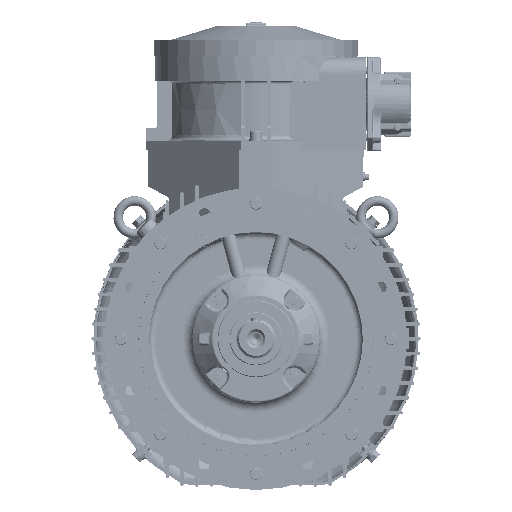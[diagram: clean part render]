
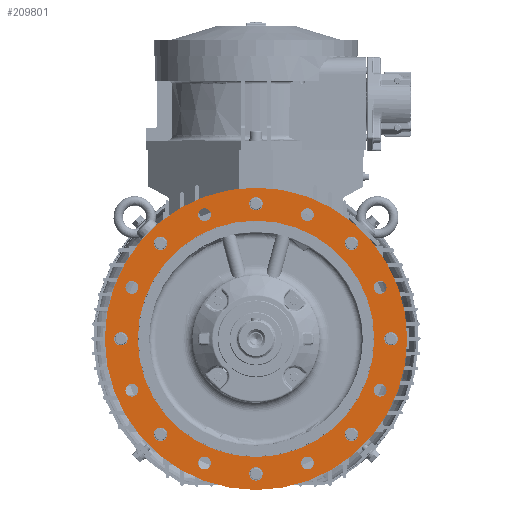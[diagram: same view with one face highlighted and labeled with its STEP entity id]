
A CAD part, left-side view. The second image highlights one B-rep face of the part: STEP entity #209801.
In plain terms, the highlighted planar face has unit normal (-1, 0, 0).
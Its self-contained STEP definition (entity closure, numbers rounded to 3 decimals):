
#38734=PLANE('',#221314);
#76226=ORIENTED_EDGE('',*,*,#100712,.F.);
#76227=ORIENTED_EDGE('',*,*,#100680,.T.);
#76228=ORIENTED_EDGE('',*,*,#100678,.T.);
#76229=ORIENTED_EDGE('',*,*,#100676,.T.);
#76230=ORIENTED_EDGE('',*,*,#100674,.T.);
#76231=ORIENTED_EDGE('',*,*,#100672,.T.);
#76232=ORIENTED_EDGE('',*,*,#100670,.T.);
#76233=ORIENTED_EDGE('',*,*,#100668,.T.);
#76234=ORIENTED_EDGE('',*,*,#100666,.T.);
#76235=ORIENTED_EDGE('',*,*,#100662,.T.);
#76236=ORIENTED_EDGE('',*,*,#100661,.F.);
#76237=ORIENTED_EDGE('',*,*,#100659,.F.);
#76238=ORIENTED_EDGE('',*,*,#100657,.F.);
#76239=ORIENTED_EDGE('',*,*,#100655,.F.);
#76240=ORIENTED_EDGE('',*,*,#100653,.F.);
#76241=ORIENTED_EDGE('',*,*,#100651,.F.);
#76242=ORIENTED_EDGE('',*,*,#100649,.F.);
#76243=ORIENTED_EDGE('',*,*,#100647,.F.);
#100647=EDGE_CURVE('',#115790,#115790,#120796,.T.);
#100649=EDGE_CURVE('',#115792,#115792,#120798,.T.);
#100651=EDGE_CURVE('',#115794,#115794,#120800,.T.);
#100653=EDGE_CURVE('',#115796,#115796,#120802,.T.);
#100655=EDGE_CURVE('',#115798,#115798,#120804,.T.);
#100657=EDGE_CURVE('',#115800,#115800,#120806,.T.);
#100659=EDGE_CURVE('',#115802,#115802,#120808,.T.);
#100661=EDGE_CURVE('',#115804,#115804,#120810,.T.);
#100662=EDGE_CURVE('',#115805,#115805,#120811,.T.);
#100666=EDGE_CURVE('',#115809,#115809,#120815,.T.);
#100668=EDGE_CURVE('',#115811,#115811,#120817,.T.);
#100670=EDGE_CURVE('',#115813,#115813,#120819,.T.);
#100672=EDGE_CURVE('',#115815,#115815,#120821,.T.);
#100674=EDGE_CURVE('',#115817,#115817,#120823,.T.);
#100676=EDGE_CURVE('',#115819,#115819,#120825,.T.);
#100678=EDGE_CURVE('',#115821,#115821,#120827,.T.);
#100680=EDGE_CURVE('',#115823,#115823,#120829,.T.);
#100712=EDGE_CURVE('',#115849,#115849,#120835,.T.);
#115790=VERTEX_POINT('',#317113);
#115792=VERTEX_POINT('',#317118);
#115794=VERTEX_POINT('',#317123);
#115796=VERTEX_POINT('',#317128);
#115798=VERTEX_POINT('',#317133);
#115800=VERTEX_POINT('',#317138);
#115802=VERTEX_POINT('',#317143);
#115804=VERTEX_POINT('',#317148);
#115805=VERTEX_POINT('',#317151);
#115809=VERTEX_POINT('',#317165);
#115811=VERTEX_POINT('',#317171);
#115813=VERTEX_POINT('',#317177);
#115815=VERTEX_POINT('',#317183);
#115817=VERTEX_POINT('',#317189);
#115819=VERTEX_POINT('',#317195);
#115821=VERTEX_POINT('',#317201);
#115823=VERTEX_POINT('',#317207);
#115849=VERTEX_POINT('',#317275);
#120796=CIRCLE('',#221238,9.5);
#120798=CIRCLE('',#221241,9.5);
#120800=CIRCLE('',#221244,9.5);
#120802=CIRCLE('',#221247,9.5);
#120804=CIRCLE('',#221250,9.5);
#120806=CIRCLE('',#221253,9.5);
#120808=CIRCLE('',#221256,9.5);
#120810=CIRCLE('',#221259,9.5);
#120811=CIRCLE('',#221261,175.919);
#120815=CIRCLE('',#221271,10.);
#120817=CIRCLE('',#221275,10.);
#120819=CIRCLE('',#221279,10.);
#120821=CIRCLE('',#221283,10.);
#120823=CIRCLE('',#221287,10.);
#120825=CIRCLE('',#221291,10.);
#120827=CIRCLE('',#221295,10.);
#120829=CIRCLE('',#221299,10.);
#120835=CIRCLE('',#221315,225.);
#131004=EDGE_LOOP('',(#76226));
#131005=EDGE_LOOP('',(#76227));
#131006=EDGE_LOOP('',(#76228));
#131007=EDGE_LOOP('',(#76229));
#131008=EDGE_LOOP('',(#76230));
#131009=EDGE_LOOP('',(#76231));
#131010=EDGE_LOOP('',(#76232));
#131011=EDGE_LOOP('',(#76233));
#131012=EDGE_LOOP('',(#76234));
#131013=EDGE_LOOP('',(#76235));
#131014=EDGE_LOOP('',(#76236));
#131015=EDGE_LOOP('',(#76237));
#131016=EDGE_LOOP('',(#76238));
#131017=EDGE_LOOP('',(#76239));
#131018=EDGE_LOOP('',(#76240));
#131019=EDGE_LOOP('',(#76241));
#131020=EDGE_LOOP('',(#76242));
#131021=EDGE_LOOP('',(#76243));
#142168=FACE_BOUND('',#131004,.T.);
#142169=FACE_BOUND('',#131005,.T.);
#142170=FACE_BOUND('',#131006,.T.);
#142171=FACE_BOUND('',#131007,.T.);
#142172=FACE_BOUND('',#131008,.T.);
#142173=FACE_BOUND('',#131009,.T.);
#142174=FACE_BOUND('',#131010,.T.);
#142175=FACE_BOUND('',#131011,.T.);
#142176=FACE_BOUND('',#131012,.T.);
#142177=FACE_BOUND('',#131013,.T.);
#142178=FACE_BOUND('',#131014,.T.);
#142179=FACE_BOUND('',#131015,.T.);
#142180=FACE_BOUND('',#131016,.T.);
#142181=FACE_BOUND('',#131017,.T.);
#142182=FACE_BOUND('',#131018,.T.);
#142183=FACE_BOUND('',#131019,.T.);
#142184=FACE_BOUND('',#131020,.T.);
#142185=FACE_BOUND('',#131021,.T.);
#209801=ADVANCED_FACE('',(#142168,#142169,#142170,#142171,#142172,#142173,
#142174,#142175,#142176,#142177,#142178,#142179,#142180,#142181,#142182,
#142183,#142184,#142185),#38734,.F.);
#221238=AXIS2_PLACEMENT_3D('',#317112,#257474,#257475);
#221241=AXIS2_PLACEMENT_3D('',#317117,#257480,#257481);
#221244=AXIS2_PLACEMENT_3D('',#317122,#257486,#257487);
#221247=AXIS2_PLACEMENT_3D('',#317127,#257492,#257493);
#221250=AXIS2_PLACEMENT_3D('',#317132,#257498,#257499);
#221253=AXIS2_PLACEMENT_3D('',#317137,#257504,#257505);
#221256=AXIS2_PLACEMENT_3D('',#317142,#257510,#257511);
#221259=AXIS2_PLACEMENT_3D('',#317147,#257516,#257517);
#221261=AXIS2_PLACEMENT_3D('',#317150,#257520,#257521);
#221271=AXIS2_PLACEMENT_3D('',#317164,#257540,#257541);
#221275=AXIS2_PLACEMENT_3D('',#317170,#257548,#257549);
#221279=AXIS2_PLACEMENT_3D('',#317176,#257556,#257557);
#221283=AXIS2_PLACEMENT_3D('',#317182,#257564,#257565);
#221287=AXIS2_PLACEMENT_3D('',#317188,#257572,#257573);
#221291=AXIS2_PLACEMENT_3D('',#317194,#257580,#257581);
#221295=AXIS2_PLACEMENT_3D('',#317200,#257588,#257589);
#221299=AXIS2_PLACEMENT_3D('',#317206,#257596,#257597);
#221314=AXIS2_PLACEMENT_3D('',#317273,#257652,#257653);
#221315=AXIS2_PLACEMENT_3D('',#317274,#257654,#257655);
#257474=DIRECTION('',(-1.,0.,0.));
#257475=DIRECTION('',(0.,-1.,0.));
#257480=DIRECTION('',(-1.,0.,0.));
#257481=DIRECTION('',(0.,-1.,0.));
#257486=DIRECTION('',(-1.,0.,0.));
#257487=DIRECTION('',(0.,-1.,0.));
#257492=DIRECTION('',(-1.,0.,0.));
#257493=DIRECTION('',(0.,-1.,0.));
#257498=DIRECTION('',(-1.,0.,0.));
#257499=DIRECTION('',(0.,-1.,0.));
#257504=DIRECTION('',(-1.,0.,0.));
#257505=DIRECTION('',(0.,-1.,0.));
#257510=DIRECTION('',(-1.,0.,0.));
#257511=DIRECTION('',(0.,-1.,0.));
#257516=DIRECTION('',(-1.,0.,0.));
#257517=DIRECTION('',(0.,-1.,0.));
#257520=DIRECTION('',(1.,0.,0.));
#257521=DIRECTION('',(0.,0.,1.));
#257540=DIRECTION('',(1.,0.,0.));
#257541=DIRECTION('',(0.,0.,-1.));
#257548=DIRECTION('',(1.,0.,0.));
#257549=DIRECTION('',(0.,0.,-1.));
#257556=DIRECTION('',(1.,0.,0.));
#257557=DIRECTION('',(0.,0.,-1.));
#257564=DIRECTION('',(1.,0.,0.));
#257565=DIRECTION('',(0.,0.,-1.));
#257572=DIRECTION('',(1.,0.,0.));
#257573=DIRECTION('',(0.,0.,-1.));
#257580=DIRECTION('',(1.,0.,0.));
#257581=DIRECTION('',(0.,0.,-1.));
#257588=DIRECTION('',(1.,0.,0.));
#257589=DIRECTION('',(0.,0.,-1.));
#257596=DIRECTION('',(1.,0.,0.));
#257597=DIRECTION('',(0.,0.,-1.));
#257652=DIRECTION('',(1.,0.,0.));
#257653=DIRECTION('',(0.,0.,1.));
#257654=DIRECTION('',(1.,0.,0.));
#257655=DIRECTION('',(0.,0.,1.));
#317112=CARTESIAN_POINT('',(-84.5,184.776,-76.537));
#317113=CARTESIAN_POINT('',(-84.5,175.276,-76.537));
#317117=CARTESIAN_POINT('',(-84.5,76.537,-184.776));
#317118=CARTESIAN_POINT('',(-84.5,67.037,-184.776));
#317122=CARTESIAN_POINT('',(-84.5,-76.537,-184.776));
#317123=CARTESIAN_POINT('',(-84.5,-86.037,-184.776));
#317127=CARTESIAN_POINT('',(-84.5,-184.776,-76.537));
#317128=CARTESIAN_POINT('',(-84.5,-194.276,-76.537));
#317132=CARTESIAN_POINT('',(-84.5,-184.776,76.537));
#317133=CARTESIAN_POINT('',(-84.5,-194.276,76.537));
#317137=CARTESIAN_POINT('',(-84.5,-76.537,184.776));
#317138=CARTESIAN_POINT('',(-84.5,-86.037,184.776));
#317142=CARTESIAN_POINT('',(-84.5,76.537,184.776));
#317143=CARTESIAN_POINT('',(-84.5,67.037,184.776));
#317147=CARTESIAN_POINT('',(-84.5,184.776,76.537));
#317148=CARTESIAN_POINT('',(-84.5,175.276,76.537));
#317150=CARTESIAN_POINT('',(-84.5,0.,0.));
#317151=CARTESIAN_POINT('',(-84.5,0.,175.919));
#317164=CARTESIAN_POINT('',(-84.5,142.128,142.128));
#317165=CARTESIAN_POINT('',(-84.5,142.128,132.128));
#317170=CARTESIAN_POINT('',(-84.5,201.,0.));
#317171=CARTESIAN_POINT('',(-84.5,201.,-10.));
#317176=CARTESIAN_POINT('',(-84.5,142.128,-142.128));
#317177=CARTESIAN_POINT('',(-84.5,142.128,-152.128));
#317182=CARTESIAN_POINT('',(-84.5,0.,-201.));
#317183=CARTESIAN_POINT('',(-84.5,0.,-211.));
#317188=CARTESIAN_POINT('',(-84.5,-142.128,-142.128));
#317189=CARTESIAN_POINT('',(-84.5,-142.128,-152.128));
#317194=CARTESIAN_POINT('',(-84.5,-201.,0.));
#317195=CARTESIAN_POINT('',(-84.5,-201.,-10.));
#317200=CARTESIAN_POINT('',(-84.5,-142.128,142.128));
#317201=CARTESIAN_POINT('',(-84.5,-142.128,132.128));
#317206=CARTESIAN_POINT('',(-84.5,0.,201.));
#317207=CARTESIAN_POINT('',(-84.5,0.,191.));
#317273=CARTESIAN_POINT('',(-84.5,0.,242.195));
#317274=CARTESIAN_POINT('',(-84.5,0.,0.));
#317275=CARTESIAN_POINT('',(-84.5,0.,225.));
